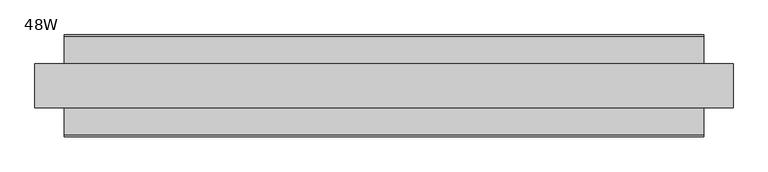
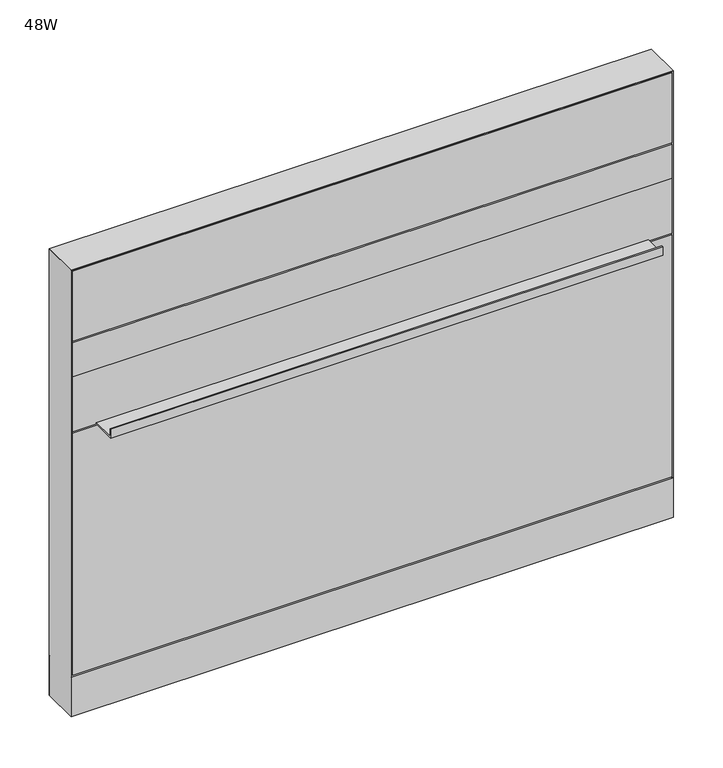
"""IFC4 building model written with IfcOpenShell, lengths in millimetres: furniture geometry, Steelcase - Montage - Frame - 38H - Enhanced Standard - Base and Desk-Height Cavity : 48W."""

from ifc_helpers import new_model, si_unit, point, frame, frame_2d, origin, origin_with_axes, place, context, project, spatial, polyline, circle_curve, trimmed, segment, composite_curve, outline, extrude, faceted_brep, source, transform, mapped, element, save


def furniture_48w_ea8cc2f8(model_context):
    return source(origin(), model_context, "Body", "SolidModel", [
        extrude(outline(polyline([(3.175, 31.7500194), (3.175, 38.1000194), (1216.025, 38.1000194), (1216.025, 31.7500194), (3.175, 31.7500194)])), frame((0.0, 0.0, 92.075), z_axis=(0.0, 0.0, 1.0), x_axis=(1.0, 0.0, 0.0)), (0.0, 0.0, 1.0), 517.525),
        extrude(outline(polyline([(88.8960768, 612.775), (38.0960752, 612.775), (38.0960752, 615.315), (86.3560768, 615.315), (86.3560768, 631.825), (88.8960768, 631.825), (88.8960768, 612.775)])), frame((50.8000015, 0.0, 0.0), z_axis=(1.0, 0.0, 0.0), x_axis=(0.0, 1.0, 0.0)), (0.0, 0.0, 1.0), 1117.599997),
        extrude(outline(polyline([(3.175, 31.7460752), (3.175, 38.0960752), (1216.025, 38.0960752), (1216.025, 31.7460752), (3.175, 31.7460752)])), frame((0.0, 0.0, 730.2499516), z_axis=(0.0, 0.0, 1.0), x_axis=(1.0, 0.0, 0.0)), (0.0, 0.0, 1.0), 73.0250484),
        extrude(outline(polyline([(3.175, 31.7460752), (3.175, 38.0960752), (1216.025, 38.0960752), (1216.025, 31.7460752), (3.175, 31.7460752)])), frame((0.0, 0.0, 612.775), z_axis=(0.0, 0.0, 1.0), x_axis=(1.0, 0.0, 0.0)), (0.0, 0.0, 1.0), 117.4749516),
        extrude(outline(polyline([(3.175, 31.7500194), (3.175, 38.1000194), (1216.025, 38.1000194), (1216.025, 31.7500194), (3.175, 31.7500194)])), frame((0.0, 0.0, 806.45), z_axis=(0.0, 0.0, 1.0), x_axis=(1.0, 0.0, 0.0)), (0.0, 0.0, 1.0), 149.225),
        extrude(outline(polyline([(3.175, -31.7500194), (1216.025, -31.7500194), (1216.025, -38.1000194), (3.175, -38.1000194), (3.175, -31.7500194)])), frame((0.0, 0.0, 92.075), z_axis=(0.0, 0.0, 1.0), x_axis=(1.0, 0.0, 0.0)), (0.0, 0.0, 1.0), 517.525),
        extrude(outline(polyline([(-88.8960768, 612.775), (-88.8960768, 631.825), (-86.3560768, 631.825), (-86.3560768, 615.315), (-38.0960752, 615.315), (-38.0960752, 612.775), (-88.8960768, 612.775)])), frame((50.8000015, 0.0, 0.0), z_axis=(1.0, 0.0, 0.0), x_axis=(0.0, 1.0, 0.0)), (0.0, 0.0, 1.0), 1117.599997),
        extrude(outline(polyline([(3.175, -31.7460752), (1216.025, -31.7460752), (1216.025, -38.0960752), (3.175, -38.0960752), (3.175, -31.7460752)])), frame((0.0, 0.0, 730.2499516), z_axis=(0.0, 0.0, 1.0), x_axis=(1.0, 0.0, 0.0)), (0.0, 0.0, 1.0), 73.0250484),
        extrude(outline(polyline([(3.175, -31.7460752), (1216.025, -31.7460752), (1216.025, -38.0960752), (3.175, -38.0960752), (3.175, -31.7460752)])), frame((0.0, 0.0, 612.775), z_axis=(0.0, 0.0, 1.0), x_axis=(1.0, 0.0, 0.0)), (0.0, 0.0, 1.0), 117.4749516),
        extrude(outline(polyline([(3.175, -31.7500194), (1216.025, -31.7500194), (1216.025, -38.1000194), (3.175, -38.1000194), (3.175, -31.7500194)])), frame((0.0, 0.0, 806.45), z_axis=(0.0, 0.0, 1.0), x_axis=(1.0, 0.0, 0.0)), (0.0, 0.0, 1.0), 149.225),
        extrude(outline(polyline([(1212.8499879, 31.749953), (1212.8499879, -31.7499985), (6.35, -31.7499985), (6.35, 31.749953), (1212.8499879, 31.749953)])), frame((0.0, 0.0, 809.6250242), z_axis=(0.0, 0.0, 1.0), x_axis=(1.0, 0.0, 0.0)), (0.0, 0.0, 1.0), 142.8749273),
        extrude(outline(polyline([(1212.8499879, 31.749953), (1212.8499879, -31.7499985), (6.35, -31.7499985), (6.35, 31.749953), (1212.8499879, 31.749953)])), frame((0.0, 0.0, 619.125), z_axis=(0.0, 0.0, 1.0), x_axis=(1.0, 0.0, 0.0)), (0.0, 0.0, 1.0), 177.8000242),
        extrude(outline(polyline([(1212.8499879, 31.7500016), (1212.8499879, -31.7499985), (6.35, -31.7499985), (6.35, 31.7500016), (1212.8499879, 31.7500016)])), frame((0.0, 0.0, 88.899997), z_axis=(0.0, 0.0, 1.0), x_axis=(1.0, 0.0, 0.0)), (0.0, 0.0, 1.0), 517.525003),
        extrude(outline(polyline([(6.350003, -31.7499985), (1212.849997, -31.7499985), (1219.2, -38.1000015), (0.0, -38.1000015), (6.350003, -31.7499985)])), frame((0.0, 0.0, 4.064), z_axis=(0.0, 0.0, 1.0), x_axis=(1.0, 0.0, 0.0)), (0.0, 0.0, 1.0), 84.835997),
        extrude(outline(polyline([(6.3500002, 31.7500017), (0.0, 38.1000015), (1219.2, 38.1000015), (1212.8500002, 31.7500017), (6.3500002, 31.7500017)])), frame((0.0, 0.0, 4.064), z_axis=(0.0, 0.0, 1.0), x_axis=(1.0, 0.0, 0.0)), (0.0, 0.0, 1.0), 84.835997),
        faceted_brep([(1219.2, -38.1000015, 958.85), (0.0, -38.1000015, 958.85), (6.3500484, -31.749953, 952.4999516), (1212.8499516, -31.749953, 952.4999516), (6.3500484, 31.749953, 952.4999516), (1212.8499516, 31.749953, 952.4999516), (0.0, 38.1000015, 958.85), (1219.2, 38.1000015, 958.85)], [[[0, 1, 2, 3]], [[3, 2, 4, 5]], [[6, 7, 5, 4]], [[1, 0, 7, 6]], [[2, 1, 6, 4]], [[0, 3, 5, 7]]]),
        extrude(outline(composite_curve([segment(trimmed(circle_curve(frame_2d((44.45, 0.0)), 15.24), [point((29.21, 0.0))], [point((59.69, 0.0))], False, "CARTESIAN"), True, "CONTINUOUS"), segment(trimmed(circle_curve(frame_2d((44.45, 0.0)), 15.24), [point((59.69, 0.0))], [point((29.21, 0.0))], False, "CARTESIAN"), True, "CONTINUOUS")], self_intersect=False)), origin_with_axes(), (0.0, 0.0, 1.0), 4.064),
        extrude(outline(composite_curve([segment(trimmed(circle_curve(frame_2d((1174.75, 0.0)), 15.24), [point((1159.51, 0.0))], [point((1189.99, 0.0))], False, "CARTESIAN"), True, "CONTINUOUS"), segment(trimmed(circle_curve(frame_2d((1174.75, 0.0)), 15.24), [point((1189.99, 0.0))], [point((1159.51, 0.0))], False, "CARTESIAN"), True, "CONTINUOUS")], self_intersect=False)), origin_with_axes(), (0.0, 0.0, 1.0), 4.064),
        faceted_brep([(1219.2, -38.1000106, 4.064), (1219.2, 38.1000015, 4.064), (1219.2, 38.1000015, 958.85), (1219.2, -38.1000106, 958.8499637), (0.0, 38.1000015, 4.064), (0.0, -38.1000015, 4.064), (0.0, -38.1000015, 958.85), (0.0, 38.1000015, 958.85), (1212.8499879, 31.7500017, 606.425), (6.35, 31.7500017, 606.425), (6.3499998, 31.7500017, 619.125), (1212.8499879, 31.7500017, 619.125), (6.35, -31.7499985, 619.125), (1212.8499879, -31.7499985, 619.125), (6.350003, -31.7499985, 606.425), (1212.8499879, -31.7499985, 606.425), (1212.8499879, 31.7500017, 796.9250242), (6.35, 31.7500017, 796.9250242), (6.3499998, 31.7500017, 809.6250242), (1212.8499879, 31.7500017, 809.6250242), (6.35, -31.7499985, 809.6250242), (1212.8499879, -31.7499985, 809.6250242), (6.350003, -31.7499985, 796.9250242), (1212.8499879, -31.7499985, 796.9250242), (6.35, 31.7500015, 4.064), (6.35, -31.7500015, 4.064), (1212.8499879, 31.7499894, 4.064), (1212.8499879, -31.7499985, 4.064), (6.35, 31.7500015, 952.5), (6.35, -31.7500015, 952.5), (1212.8499879, -31.7499985, 952.4999516), (1212.8499879, 31.7499899, 952.4999516)], [[[0, 1, 2, 3]], [[4, 5, 6, 7]], [[8, 9, 10, 11]], [[11, 10, 12, 13]], [[13, 12, 14, 15]], [[9, 8, 15, 14]], [[16, 17, 18, 19]], [[19, 18, 20, 21]], [[21, 20, 22, 23]], [[17, 16, 23, 22]], [[24, 25, 5, 4]], [[26, 1, 0, 27]], [[24, 4, 7, 28, 18, 17, 10, 9]], [[5, 25, 14, 12, 22, 20, 29, 6]], [[25, 24, 9, 14]], [[10, 17, 22, 12]], [[20, 18, 28, 29]], [[26, 27, 15, 8]], [[16, 11, 13, 23]], [[19, 21, 30, 31]], [[27, 0, 3, 30, 21, 23, 13, 15]], [[1, 26, 8, 11, 16, 19, 31, 2]], [[7, 6, 29, 28]], [[3, 2, 31, 30]]]),
    ])


if __name__ == "__main__":
    model = new_model("IFC4")
    model_context = context("Model", 3, world=origin())
    ifc_project = project(units=[si_unit("LENGTHUNIT", "METRE", prefix="MILLI")], contexts=[model_context])
    site = spatial("IfcSite", under=ifc_project)
    building = spatial("IfcBuilding", under=site)
    placement = place(None, origin())
    furniture_48w_shape = furniture_48w_ea8cc2f8(model_context)
    element("IfcFurniture", 1, ObjectType="Steelcase - Montage - Frame - 38H - Enhanced Standard - Base and Desk-Height Cavity : 48W", at=placement, inside=building, context=model_context, shape_type="MappedRepresentation", body=[
        mapped(furniture_48w_shape, transform((0.0, 0.0, 0.0), x_axis=(1.0, 0.0, 0.0), y_axis=(0.0, 1.0, 0.0), z_axis=(0.0, 0.0, 1.0))),
    ])
    save(model, "model.ifc")
